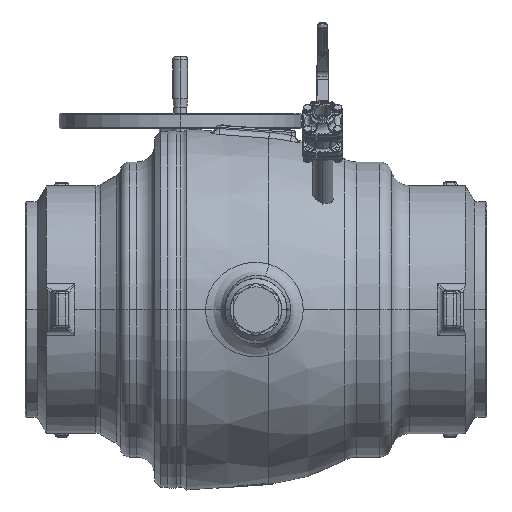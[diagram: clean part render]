
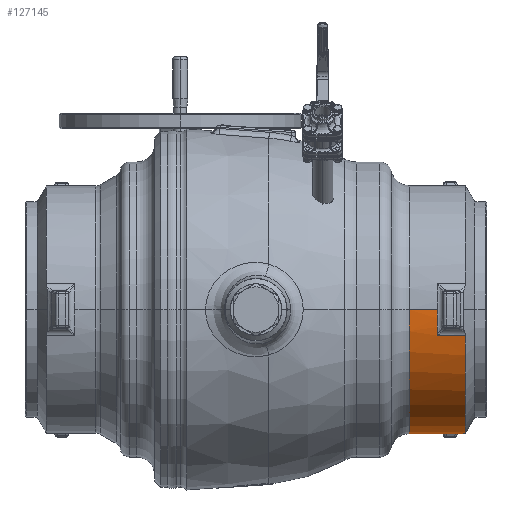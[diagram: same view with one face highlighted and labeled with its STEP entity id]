
A CAD part, front view. The second image highlights one B-rep face of the part: STEP entity #127145.
In plain terms, the highlighted cylindrical face has radius 205 mm (diameter 410 mm), a partial arc.
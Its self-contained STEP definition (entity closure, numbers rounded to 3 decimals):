
#24218=DIRECTION('',(-1.,0.,0.));
#24219=VECTOR('',#24218,46.34);
#24220=CARTESIAN_POINT('',(299.,0.,-205.));
#24221=LINE('',#24220,#24219);
#24227=DIRECTION('',(-1.,0.,0.));
#24228=VECTOR('',#24227,46.34);
#24229=CARTESIAN_POINT('',(299.,0.,205.));
#24230=LINE('',#24229,#24228);
#24231=CARTESIAN_POINT('',(299.,0.,0.));
#24232=DIRECTION('',(-1.,0.,0.));
#24233=DIRECTION('',(0.,-0.698,0.716));
#24234=AXIS2_PLACEMENT_3D('',#24231,#24232,#24233);
#24555=CARTESIAN_POINT('',(345.296,0.,0.));
#24556=DIRECTION('',(-1.,0.,0.));
#24557=DIRECTION('',(0.,0.,1.));
#24558=AXIS2_PLACEMENT_3D('',#24555,#24556,#24557);
#24560=CARTESIAN_POINT('',(345.296,0.,0.));
#24561=DIRECTION('',(-1.,0.,0.));
#24562=DIRECTION('',(0.,-0.698,0.716));
#24563=AXIS2_PLACEMENT_3D('',#24560,#24561,#24562);
#24565=DIRECTION('',(-1.,0.,0.));
#24566=VECTOR('',#24565,46.296);
#24567=CARTESIAN_POINT('',(345.296,-143.043,
146.846));
#24568=LINE('',#24567,#24566);
#24569=CARTESIAN_POINT('',(252.66,0.,0.));
#24570=DIRECTION('',(1.,0.,0.));
#24571=DIRECTION('',(0.,0.,-1.));
#24572=AXIS2_PLACEMENT_3D('',#24569,#24570,#24571);
#24574=DIRECTION('',(-1.,0.,0.));
#24575=VECTOR('',#24574,46.296);
#24576=CARTESIAN_POINT('',(345.296,43.04,
-200.431));
#24577=LINE('',#24576,#24575);
#24578=CARTESIAN_POINT('',(345.296,0.,0.));
#24579=DIRECTION('',(-1.,0.,0.));
#24580=DIRECTION('',(0.,0.952,0.307));
#24581=AXIS2_PLACEMENT_3D('',#24578,#24579,#24580);
#24583=DIRECTION('',(-1.,0.,0.));
#24584=VECTOR('',#24583,46.296);
#24585=CARTESIAN_POINT('',(345.296,195.098,62.942));
#24586=LINE('',#24585,#24584);
#24587=DIRECTION('',(-1.,0.,0.));
#24588=VECTOR('',#24587,46.296);
#24589=CARTESIAN_POINT('',(345.296,143.043,146.846));
#24590=LINE('',#24589,#24588);
#45535=CARTESIAN_POINT('',(299.,43.04,-200.431));
#45537=CARTESIAN_POINT('',(299.,0.,0.));
#45538=DIRECTION('',(-1.,0.,0.));
#45539=DIRECTION('',(0.,0.21,-0.978));
#45540=AXIS2_PLACEMENT_3D('',#45537,#45538,#45539);
#45866=CARTESIAN_POINT('',(299.,195.098,62.942));
#46159=CARTESIAN_POINT('',(299.,143.043,146.846));
#46161=CARTESIAN_POINT('',(299.,0.,0.));
#46162=DIRECTION('',(-1.,0.,0.));
#46163=DIRECTION('',(0.,0.698,0.716));
#46164=AXIS2_PLACEMENT_3D('',#46161,#46162,#46163);
#68987=CARTESIAN_POINT('',(252.66,0.,205.));
#68988=CARTESIAN_POINT('',(252.66,0.,-205.));
#68989=VERTEX_POINT('',#68987);
#68990=VERTEX_POINT('',#68988);
#69033=CARTESIAN_POINT('',(345.296,0.,205.));
#69034=CARTESIAN_POINT('',(345.296,143.043,146.846));
#69035=VERTEX_POINT('',#69033);
#69036=VERTEX_POINT('',#69034);
#69055=CARTESIAN_POINT('',(299.,0.,-205.));
#69056=VERTEX_POINT('',#69055);
#69057=CARTESIAN_POINT('',(299.,0.,205.));
#69058=VERTEX_POINT('',#69057);
#69059=CARTESIAN_POINT('',(299.,-143.043,146.846));
#69060=VERTEX_POINT('',#69059);
#69062=VERTEX_POINT('',#45535);
#69123=VERTEX_POINT('',#45866);
#69125=VERTEX_POINT('',#46159);
#69184=CARTESIAN_POINT('',(345.296,195.098,62.942));
#69185=CARTESIAN_POINT('',(345.296,43.04,
-200.431));
#69186=VERTEX_POINT('',#69184);
#69187=VERTEX_POINT('',#69185);
#69188=CARTESIAN_POINT('',(345.296,-143.043,
146.846));
#69189=VERTEX_POINT('',#69188);
#127119=CARTESIAN_POINT('',(420.95,0.,0.));
#127120=DIRECTION('',(-1.,0.,0.));
#127121=DIRECTION('',(0.,0.,1.));
#127122=AXIS2_PLACEMENT_3D('',#127119,#127120,#127121);
#127123=CYLINDRICAL_SURFACE('',#127122,205.);
#127124=ORIENTED_EDGE('',*,*,#127094,.F.);
#127125=ORIENTED_EDGE('',*,*,#126758,.F.);
#127127=ORIENTED_EDGE('',*,*,#127126,.T.);
#127128=ORIENTED_EDGE('',*,*,#126790,.T.);
#127129=ORIENTED_EDGE('',*,*,#126788,.T.);
#127131=ORIENTED_EDGE('',*,*,#127130,.F.);
#127132=ORIENTED_EDGE('',*,*,#126784,.F.);
#127134=ORIENTED_EDGE('',*,*,#127133,.F.);
#127135=ORIENTED_EDGE('',*,*,#127078,.F.);
#127136=ORIENTED_EDGE('',*,*,#127108,.F.);
#127138=ORIENTED_EDGE('',*,*,#127137,.T.);
#127140=ORIENTED_EDGE('',*,*,#127139,.F.);
#127142=ORIENTED_EDGE('',*,*,#127141,.F.);
#127143=EDGE_LOOP('',(#127124,#127125,#127127,#127128,#127129,#127131,#127132,
#127134,#127135,#127136,#127138,#127140,#127142));
#127144=FACE_OUTER_BOUND('',#127143,.F.);
#127145=ADVANCED_FACE('',(#127144),#127123,.T.);
#24235=CIRCLE('',#24234,205.);
#24559=CIRCLE('',#24558,205.);
#24564=CIRCLE('',#24563,205.);
#24573=CIRCLE('',#24572,205.);
#24582=CIRCLE('',#24581,205.);
#45541=CIRCLE('',#45540,205.);
#46165=CIRCLE('',#46164,205.);
#126758=EDGE_CURVE('',#69189,#69035,#24564,.T.);
#126784=EDGE_CURVE('',#69056,#68990,#24221,.T.);
#126788=EDGE_CURVE('',#69058,#68989,#24230,.T.);
#126790=EDGE_CURVE('',#69060,#69058,#24235,.T.);
#127078=EDGE_CURVE('',#69187,#69062,#24577,.T.);
#127094=EDGE_CURVE('',#69035,#69036,#24559,.T.);
#127108=EDGE_CURVE('',#69186,#69187,#24582,.T.);
#127126=EDGE_CURVE('',#69189,#69060,#24568,.T.);
#127130=EDGE_CURVE('',#68990,#68989,#24573,.T.);
#127133=EDGE_CURVE('',#69062,#69056,#45541,.T.);
#127137=EDGE_CURVE('',#69186,#69123,#24586,.T.);
#127139=EDGE_CURVE('',#69125,#69123,#46165,.T.);
#127141=EDGE_CURVE('',#69036,#69125,#24590,.T.);
